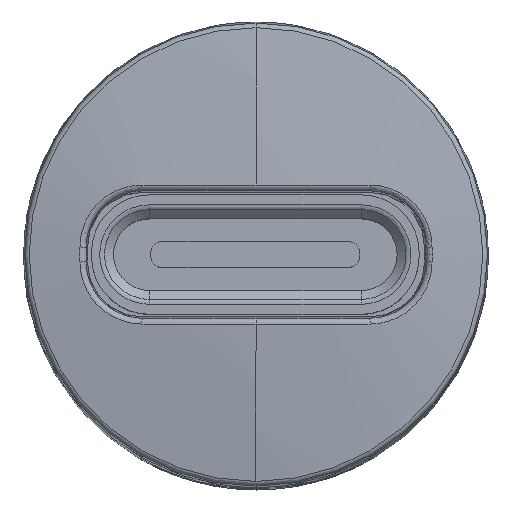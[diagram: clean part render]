
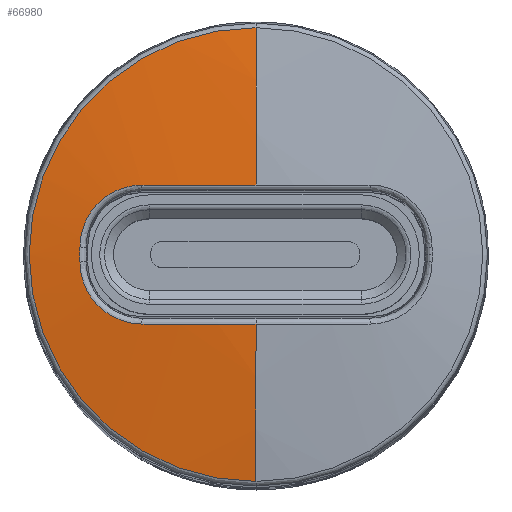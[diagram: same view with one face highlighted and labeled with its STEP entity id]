
A CAD part, top view. The second image highlights one B-rep face of the part: STEP entity #66980.
In plain terms, the highlighted spherical face has radius 40 mm.
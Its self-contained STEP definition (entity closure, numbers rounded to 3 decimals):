
#972 = CARTESIAN_POINT ( 'NONE',  ( -3.963, -1.681, 0.276 ) ) ;
#3227 = CARTESIAN_POINT ( 'NONE',  ( -4.11, 0., -39.564 ) ) ;
#4363 = CIRCLE ( 'NONE', #62155, 40. ) ;
#4752 = CARTESIAN_POINT ( 'NONE',  ( -4.76, 0.645, 0.218 ) ) ;
#4881 = CARTESIAN_POINT ( 'NONE',  ( 0., 0., -39.493 ) ) ;
#6050 = CARTESIAN_POINT ( 'NONE',  ( -4.143, 1.548, 0.262 ) ) ;
#6914 = CARTESIAN_POINT ( 'NONE',  ( -3.958, 1.668, 0.276 ) ) ;
#7126 = CARTESIAN_POINT ( 'NONE',  ( -3.22, -1.895, 0.332 ) ) ;
#7756 = AXIS2_PLACEMENT_3D ( 'NONE', #65227, #44064, #31678 ) ;
#8195 = ORIENTED_EDGE ( 'NONE', *, *, #69464, .T. ) ;
#11288 = AXIS2_PLACEMENT_3D ( 'NONE', #3227, #16452, #64100 ) ;
#11350 = CARTESIAN_POINT ( 'NONE',  ( -4.804, 0.423, 0.216 ) ) ;
#11374 = SPHERICAL_SURFACE ( 'NONE', #7756, 40. ) ;
#11671 = EDGE_CURVE ( 'NONE', #68316, #76106, #63485, .T. ) ;
#12786 = DIRECTION ( 'NONE',  ( -1., 0., 0. ) ) ;
#13538 = CARTESIAN_POINT ( 'NONE',  ( -4.229, 1.478, 0.256 ) ) ;
#13756 = CARTESIAN_POINT ( 'NONE',  ( -4.804, -0.201, 0.217 ) ) ;
#13947 = EDGE_CURVE ( 'NONE', #68207, #66848, #4363, .T. ) ;
#15589 = DIRECTION ( 'NONE',  ( 0., 0., 1. ) ) ;
#16452 = DIRECTION ( 'NONE',  ( -1., 0., -0.017 ) ) ;
#20265 = DIRECTION ( 'NONE',  ( 0., 0., -1. ) ) ;
#20965 = CARTESIAN_POINT ( 'NONE',  ( 0., -6.19, 0.025 ) ) ;
#21864 = CIRCLE ( 'NONE', #69777, 39.982 ) ;
#22746 = VERTEX_POINT ( 'NONE', #25419 ) ;
#23762 = FACE_OUTER_BOUND ( 'NONE', #26313, .T. ) ;
#24036 = ORIENTED_EDGE ( 'NONE', *, *, #27829, .T. ) ;
#24983 = VERTEX_POINT ( 'NONE', #63458 ) ;
#25084 = ORIENTED_EDGE ( 'NONE', *, *, #65760, .F. ) ;
#25112 = AXIS2_PLACEMENT_3D ( 'NONE', #65440, #66320, #53505 ) ;
#25419 = CARTESIAN_POINT ( 'NONE',  ( 0., 1.898, 0.462 ) ) ;
#25463 = CARTESIAN_POINT ( 'NONE',  ( -3.329, 1.895, 0.324 ) ) ;
#26313 = EDGE_LOOP ( 'NONE', ( #43237, #77391, #75632, #53136, #49731, #24036, #8195, #25084 ) ) ;
#26995 = CARTESIAN_POINT ( 'NONE',  ( -3.545, -1.84, 0.307 ) ) ;
#27436 = CARTESIAN_POINT ( 'NONE',  ( -4.15, -1.557, 0.262 ) ) ;
#27761 = DIRECTION ( 'NONE',  ( 1., 0., 0. ) ) ;
#27829 = EDGE_CURVE ( 'NONE', #76106, #24983, #69633, .T. ) ;
#28313 = CARTESIAN_POINT ( 'NONE',  ( -4.804, -0.201, 0.217 ) ) ;
#28761 = CARTESIAN_POINT ( 'NONE',  ( -3.652, -1.807, 0.299 ) ) ;
#29353 = CIRCLE ( 'NONE', #25112, 39.982 ) ;
#31546 = B_SPLINE_CURVE_WITH_KNOTS ( 'NONE', 3,
 ( #75580, #7126, #34053, #47291, #26995, #28761, #68507, #972, #27436, #41991, #55691, #81293, #81733, #28313 ),
 .UNSPECIFIED., .F., .F.,
 ( 4, 2, 2, 2, 2, 2, 4 ),
 ( 0., 0.125, 0.187, 0.25, 0.5, 0.75, 1. ),
 .UNSPECIFIED. ) ;
#31654 = CARTESIAN_POINT ( 'NONE',  ( -4.59, 1.054, 0.23 ) ) ;
#31678 = DIRECTION ( 'NONE',  ( 0., 1., 0. ) ) ;
#32482 = CARTESIAN_POINT ( 'NONE',  ( 0., 6.19, 0.025 ) ) ;
#34053 = CARTESIAN_POINT ( 'NONE',  ( -3.329, -1.885, 0.324 ) ) ;
#34468 = AXIS2_PLACEMENT_3D ( 'NONE', #76429, #27761, #20265 ) ;
#35323 = CARTESIAN_POINT ( 'NONE',  ( -3.112, -1.895, 0.341 ) ) ;
#36293 = AXIS2_PLACEMENT_3D ( 'NONE', #76084, #15589, #81808 ) ;
#40447 = CARTESIAN_POINT ( 'NONE',  ( -4.006, 1.64, 0.272 ) ) ;
#41991 = CARTESIAN_POINT ( 'NONE',  ( -4.465, -1.242, 0.239 ) ) ;
#43237 = ORIENTED_EDGE ( 'NONE', *, *, #76260, .T. ) ;
#44064 = DIRECTION ( 'NONE',  ( -1., 0., 0. ) ) ;
#44505 = DIRECTION ( 'NONE',  ( 0., -0.017, -1. ) ) ;
#45023 = DIRECTION ( 'NONE',  ( 0., -1., 0. ) ) ;
#46625 = CARTESIAN_POINT ( 'NONE',  ( -3.813, 1.743, 0.287 ) ) ;
#46875 = EDGE_CURVE ( 'NONE', #60535, #68316, #31546, .T. ) ;
#47291 = CARTESIAN_POINT ( 'NONE',  ( -3.491, -1.853, 0.312 ) ) ;
#47507 = CARTESIAN_POINT ( 'NONE',  ( -3.548, 1.854, 0.307 ) ) ;
#47941 = EDGE_CURVE ( 'NONE', #66848, #60535, #29353, .T. ) ;
#49731 = ORIENTED_EDGE ( 'NONE', *, *, #11671, .T. ) ;
#52242 = CARTESIAN_POINT ( 'NONE',  ( -4.804, 0.201, 0.217 ) ) ;
#53136 = ORIENTED_EDGE ( 'NONE', *, *, #46875, .T. ) ;
#53268 = CARTESIAN_POINT ( 'NONE',  ( -3.861, 1.721, 0.283 ) ) ;
#53505 = DIRECTION ( 'NONE',  ( 0., -0.017, 1. ) ) ;
#55502 = VERTEX_POINT ( 'NONE', #32482 ) ;
#55691 = CARTESIAN_POINT ( 'NONE',  ( -4.589, -1.057, 0.23 ) ) ;
#60535 = VERTEX_POINT ( 'NONE', #35323 ) ;
#62155 = AXIS2_PLACEMENT_3D ( 'NONE', #4881, #12786, #45023 ) ;
#63071 = CIRCLE ( 'NONE', #36293, 6.19 ) ;
#63458 = CARTESIAN_POINT ( 'NONE',  ( -3.112, 1.895, 0.341 ) ) ;
#63485 = CIRCLE ( 'NONE', #11288, 39.788 ) ;
#64100 = DIRECTION ( 'NONE',  ( 0.017, 0., -1. ) ) ;
#65227 = CARTESIAN_POINT ( 'NONE',  ( 0., 0., -39.493 ) ) ;
#65251 = DIRECTION ( 'NONE',  ( 0., 1., -0.017 ) ) ;
#65440 = CARTESIAN_POINT ( 'NONE',  ( 0., -1.2, -39.514 ) ) ;
#65760 = EDGE_CURVE ( 'NONE', #55502, #22746, #69728, .T. ) ;
#66320 = DIRECTION ( 'NONE',  ( 0., -1., -0.017 ) ) ;
#66848 = VERTEX_POINT ( 'NONE', #79883 ) ;
#66980 = ADVANCED_FACE ( 'NONE', ( #23762 ), #11374, .T. ) ;
#67394 = CARTESIAN_POINT ( 'NONE',  ( -4.466, 1.241, 0.238 ) ) ;
#68207 = VERTEX_POINT ( 'NONE', #20965 ) ;
#68316 = VERTEX_POINT ( 'NONE', #13756 ) ;
#68507 = CARTESIAN_POINT ( 'NONE',  ( -3.707, -1.787, 0.295 ) ) ;
#69464 = EDGE_CURVE ( 'NONE', #24983, #22746, #21864, .T. ) ;
#69633 = B_SPLINE_CURVE_WITH_KNOTS ( 'NONE', 3,
 ( #71841, #11350, #4752, #31654, #67394, #13538, #6050, #40447, #6914, #53268, #46625, #47507, #25463, #74478 ),
 .UNSPECIFIED., .F., .F.,
 ( 4, 2, 2, 2, 2, 2, 4 ),
 ( 0., 0.25, 0.5, 0.625, 0.688, 0.75, 1. ),
 .UNSPECIFIED. ) ;
#69728 = CIRCLE ( 'NONE', #34468, 40. ) ;
#69777 = AXIS2_PLACEMENT_3D ( 'NONE', #73203, #65251, #44505 ) ;
#71841 = CARTESIAN_POINT ( 'NONE',  ( -4.804, 0.201, 0.217 ) ) ;
#73203 = CARTESIAN_POINT ( 'NONE',  ( 0., 1.2, -39.514 ) ) ;
#74478 = CARTESIAN_POINT ( 'NONE',  ( -3.112, 1.895, 0.341 ) ) ;
#75580 = CARTESIAN_POINT ( 'NONE',  ( -3.112, -1.895, 0.341 ) ) ;
#75632 = ORIENTED_EDGE ( 'NONE', *, *, #47941, .T. ) ;
#76084 = CARTESIAN_POINT ( 'NONE',  ( 0., 0., 0.025 ) ) ;
#76106 = VERTEX_POINT ( 'NONE', #52242 ) ;
#76260 = EDGE_CURVE ( 'NONE', #55502, #68207, #63071, .T. ) ;
#76429 = CARTESIAN_POINT ( 'NONE',  ( 0., 0., -39.493 ) ) ;
#77391 = ORIENTED_EDGE ( 'NONE', *, *, #13947, .T. ) ;
#79883 = CARTESIAN_POINT ( 'NONE',  ( 0., -1.898, 0.462 ) ) ;
#81293 = CARTESIAN_POINT ( 'NONE',  ( -4.76, -0.645, 0.218 ) ) ;
#81733 = CARTESIAN_POINT ( 'NONE',  ( -4.804, -0.423, 0.216 ) ) ;
#81808 = DIRECTION ( 'NONE',  ( 0., 1., 0. ) ) ;
